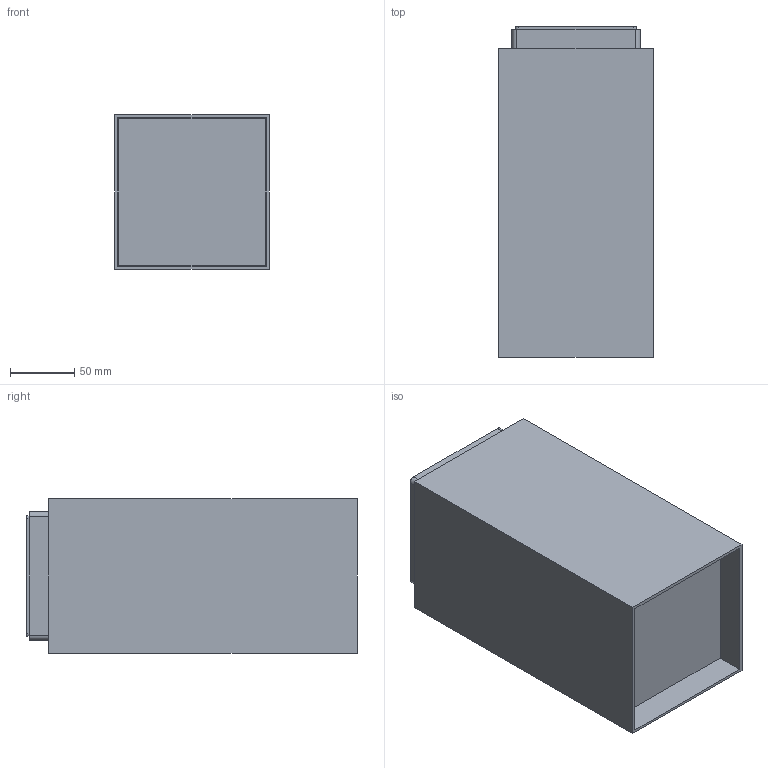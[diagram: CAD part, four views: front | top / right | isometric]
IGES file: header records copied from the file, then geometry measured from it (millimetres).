
Start section: SolidWorks IGES file using analytic representation for surfaces
Global section: file name: C:\Users\tungari.NEMOLIGHTING\Desktop\3D\TABLE\3D_PRISMA\DEFEATURE\3D_PRISMA.IGS; native system: SolidWorks 2016; preprocessor: SolidWorks 2016; author: tungari; date: 180301.161420; units: millimetre
Bounding box: 120 x 257 x 120 mm (x, y, z)
Surface area: 404346.6 mm2 (no closed solid volume)
Topology: 0 solids, 0 shells, 64 faces, 536 edges, 536 vertices
Faces by surface type: bspline 48, revolution 16
